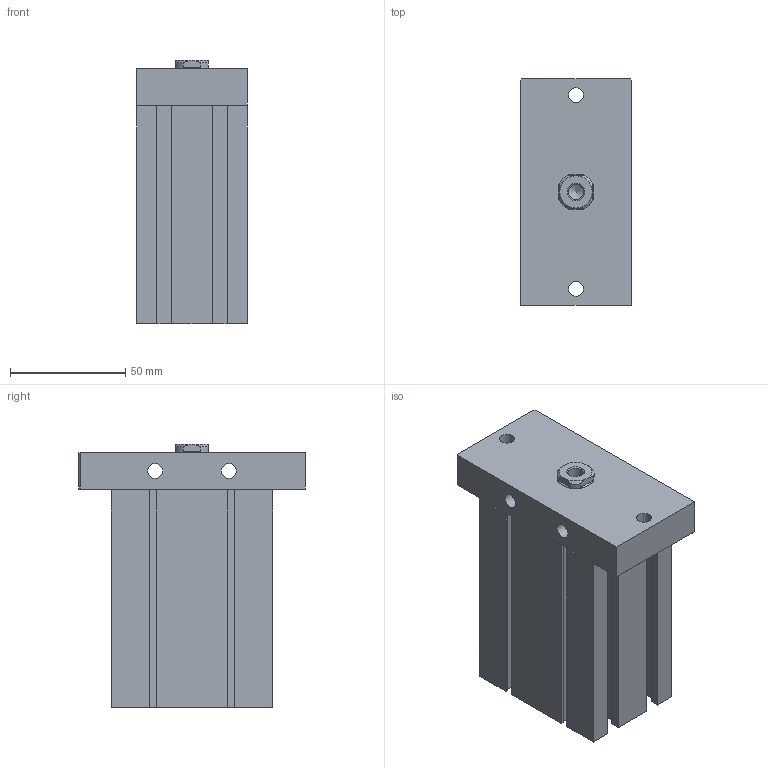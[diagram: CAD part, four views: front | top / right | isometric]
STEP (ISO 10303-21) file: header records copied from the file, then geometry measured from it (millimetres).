
FILE_DESCRIPTION((''),'2;1');
FILE_NAME('J:\3D電子目錄\氣缸\ND\ND\ND40-F\ND40x60-F.stp','2008-03-12T16:41:10',('66-2f-008'),(''),'Autodesk Inventor 11','Autodesk Inventor 11','');
FILE_SCHEMA(('AUTOMOTIVE_DESIGN { 1 0 10303 214 1 1 1 1 }'));
Length unit declared in the file: millimetre
Products named in the file (1): ND40-F
Bounding box: 48 x 98 x 114 mm (x, y, z)
Volume: 353061.2 mm3; surface area: 53866.8 mm2
Topology: 2 solids, 2 shells, 139 faces, 351 edges, 225 vertices
Faces by surface type: plane 99, bspline 16, cone 12, cylinder 11, torus 1
Full cylindrical faces by diameter (mm): 2.2 x2, 6.5 x2, 29 x1, 42 x1, 44.5 x1
Entity records: 4102 total; most frequent: CARTESIAN_POINT 908, ORIENTED_EDGE 634, DIRECTION 618, EDGE_CURVE 317, VECTOR 248, LINE 248, VERTEX_POINT 219, AXIS2_PLACEMENT_3D 185
